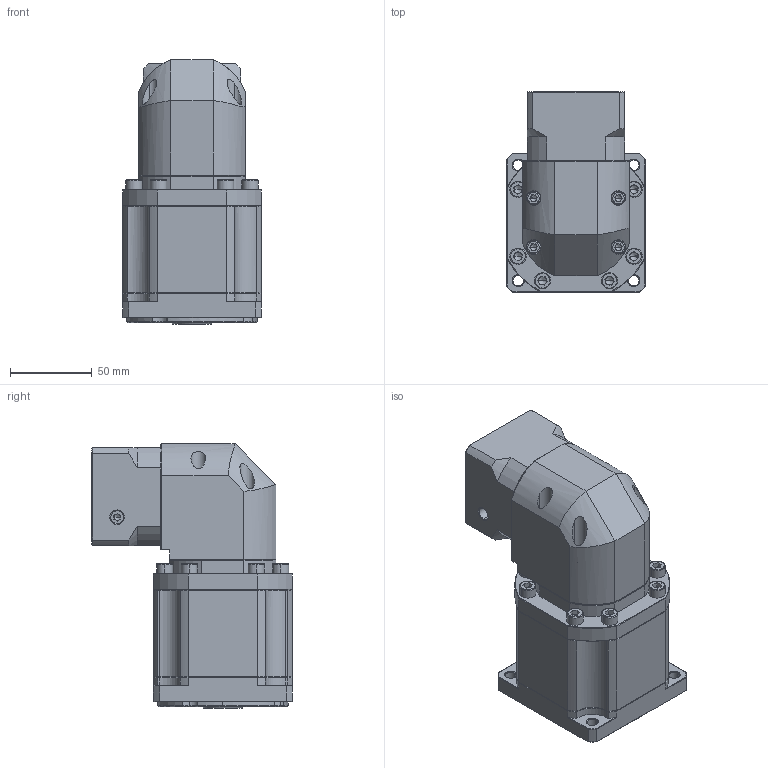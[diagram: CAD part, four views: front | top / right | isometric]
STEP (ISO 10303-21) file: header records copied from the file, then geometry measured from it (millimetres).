
FILE_DESCRIPTION (( 'STEP AP214' ), '1' );
FILE_NAME ('ZBR090-K15-L3-P2-8-38.1-47.14x47.14-M4.step', '2023-08-19T04:03:45', ( '' ), ( '' ), 'SwSTEP 2.0', 'SolidWorks 2016', '' );
FILE_SCHEMA (( 'AUTOMOTIVE_DESIGN' ));
Length unit declared in the file: millimetre
Products named in the file (1): ZBR090-K15-L3-P2-8-38.1-47.14x47.14-M4
Bounding box: 85 x 122.7 x 162 mm (x, y, z)
Volume: 908751.6 mm3; surface area: 105176.4 mm2
Topology: 5 solids, 5 shells, 2383 faces, 6343 edges, 4062 vertices
Faces by surface type: plane 1172, bspline 416, cylinder 412, cone 363, torus 20
Entity records: 121273 total; most frequent: CARTESIAN_POINT 38853, ORIENTED_EDGE 12598, DIRECTION 10206, EDGE_CURVE 6299, VERTEX_POINT 4062, VECTOR 3972, LINE 3972, AXIS2_PLACEMENT_3D 3117
